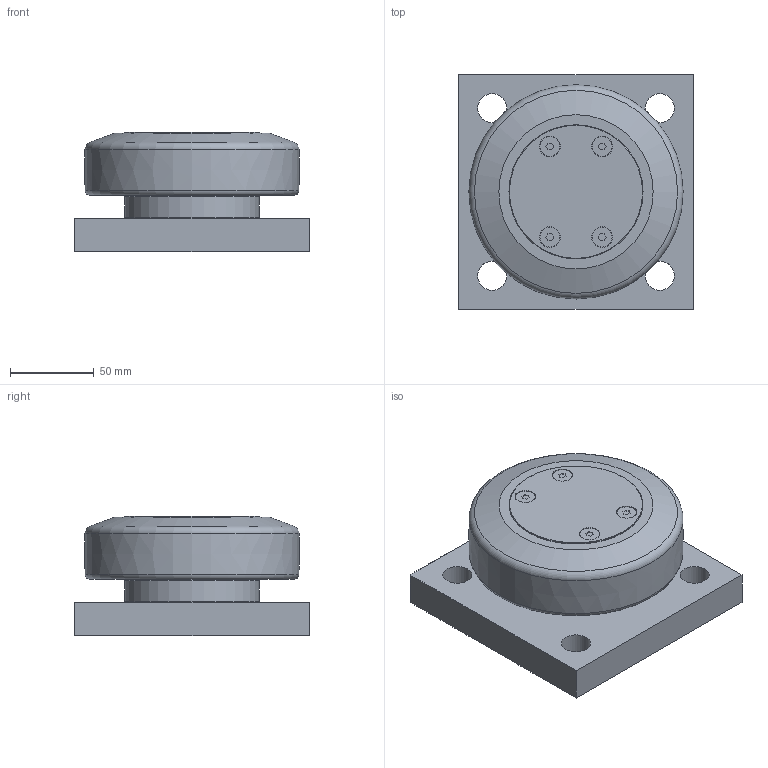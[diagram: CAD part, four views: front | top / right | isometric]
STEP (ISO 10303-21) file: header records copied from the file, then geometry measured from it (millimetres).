
FILE_DESCRIPTION(/* description */ ('-','CAx-IF Rec.Pracs.---Representation and Presentation of Product Manufacturing Information (PMI)---4.0---2014-10-13'),/* implementation_level */ '2;1');
FILE_NAME(/* name */ 'c:\temp\fd37f5b4-49e2-4795-8bf0-a9abab762e49\d8310311-2c55-423a-9db1-b86d3708025a.stp',/* time_stamp */ '2020-04-01T16:21:35+02:00',/* author */ ('-'),/* organization */ ('NTI CADcenter A/S'),/* preprocessor_version */ 'ST-DEVELOPER v18',/* originating_system */ 'Autodesk Inventor 2020',/* authorisation */ '-');
FILE_SCHEMA (('AP242_MANAGED_MODEL_BASED_3D_ENGINEERING_MIM_LF { 1 0 10303 442 1 1 4 }'));
Length unit declared in the file: millimetre
Products named in the file (1): PT 120.0460 BQ1000_Kontur
Bounding box: 140 x 140 x 71.5 mm (x, y, z)
Volume: 897144.1 mm3; surface area: 84310.3 mm2
Topology: 1 solids, 1 shells, 68 faces, 162 edges, 112 vertices
Faces by surface type: plane 46, cylinder 15, cone 4, torus 2, bspline 1
Full cylindrical faces by diameter (mm): 11.7 x4, 12.4 x4, 17.294 x4, 80 x3
Entity records: 2080 total; most frequent: CARTESIAN_POINT 369, DIRECTION 357, ORIENTED_EDGE 324, EDGE_CURVE 162, AXIS2_PLACEMENT_3D 127, VERTEX_POINT 112, LINE 103, VECTOR 103
